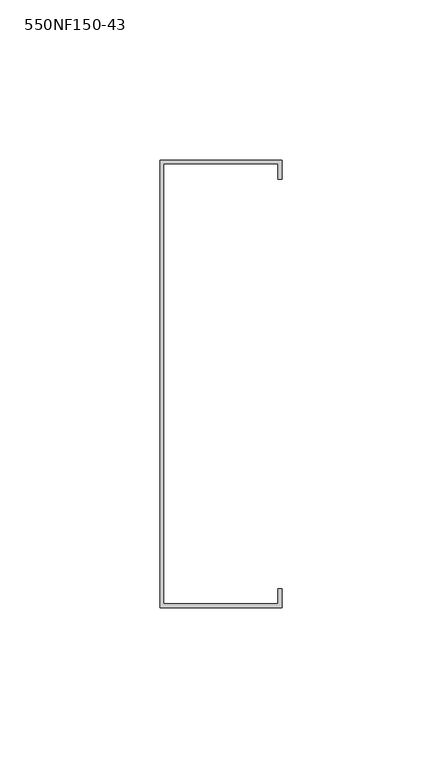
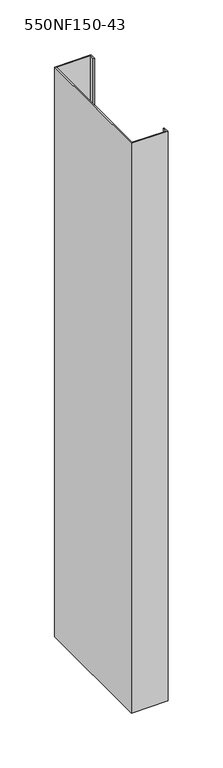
"""IFC4 building model written with IfcOpenShell, lengths in millimetres: column geometry, BIMSF-SSMA-S-Column : 550NF150-43."""

from ifc_helpers import new_model, si_unit, frame, origin, place, context, project, spatial, polyline, outline, extrude, source, transform, mapped, element, save


def column_550nf150_43_20ea3d9e(model_context):
    return source(origin(), model_context, "Body", "SweptSolid", [
        extrude(outline(polyline([(-11.9977877, -80.5871249), (-11.9977877, 59.1128751), (26.1022123, 59.1128751), (26.1022123, 53.1879908), (24.952528, 53.1879908), (24.952528, 57.9631908), (-10.8481035, 57.9631908), (-10.8481035, -79.4374407), (24.952528, -79.4374407), (24.952528, -74.6622407), (26.1022123, -74.6622407), (26.1022123, -80.5871249), (-11.9977877, -80.5871249)])), frame((0.0, 0.0, 5525.3929688), z_axis=(0.0, 0.0, 1.0), x_axis=(1.0, 0.0, 0.0)), (0.0, 0.0, 1.0), 632.4332427),
    ])


if __name__ == "__main__":
    model = new_model("IFC4")
    model_context = context("Model", 3, world=origin())
    ifc_project = project(units=[si_unit("LENGTHUNIT", "METRE", prefix="MILLI")], contexts=[model_context])
    site = spatial("IfcSite", under=ifc_project)
    building = spatial("IfcBuilding", under=site)
    placement = place(None, origin())
    column_550nf150_43_shape = column_550nf150_43_20ea3d9e(model_context)
    element("IfcColumn", 1, ObjectType="BIMSF-SSMA-S-Column : 550NF150-43", at=placement, inside=building, context=model_context, shape_type="MappedRepresentation", body=[
        mapped(column_550nf150_43_shape, transform((0.0, 0.0, 0.0), x_axis=(1.0, 0.0, 0.0), y_axis=(0.0, 1.0, 0.0), z_axis=(0.0, 0.0, 1.0))),
    ])
    save(model, "model.ifc")
